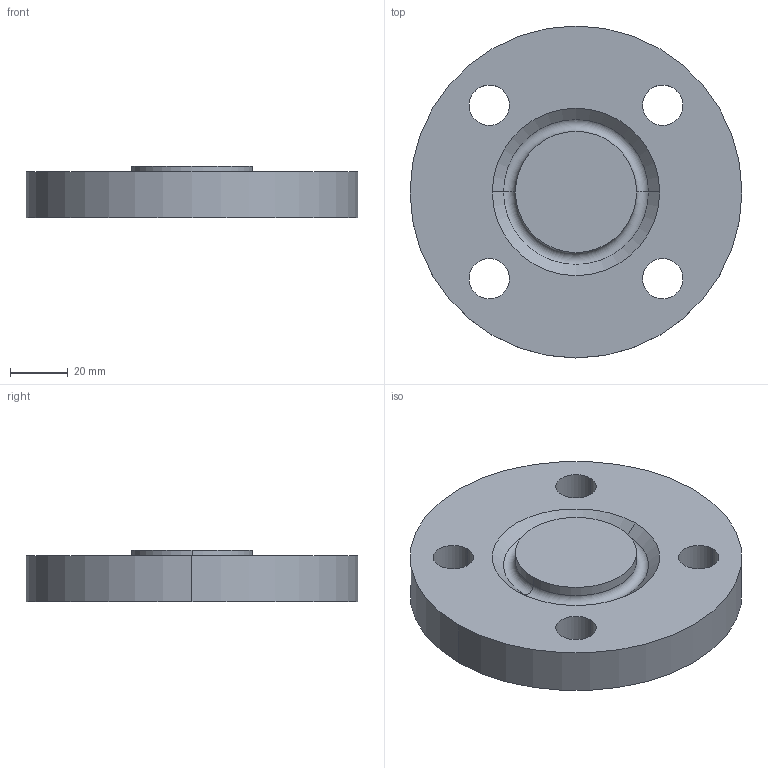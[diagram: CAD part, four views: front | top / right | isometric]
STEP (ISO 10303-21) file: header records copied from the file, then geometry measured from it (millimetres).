
FILE_DESCRIPTION (( 'STEP AP214' ), '1' );
FILE_NAME ('PN40 DN25 Type 05 - Type H Face.STEP', '2018-12-29T20:33:28', ( '' ), ( '' ), 'SwSTEP 2.0', 'SolidWorks 2019', '' );
FILE_SCHEMA (( 'AUTOMOTIVE_DESIGN' ));
Length unit declared in the file: millimetre
Products named in the file (1): PN40 DN25 Type 05 - Type H Face
Bounding box: 115 x 115 x 18 mm (x, y, z)
Volume: 155854.2 mm3; surface area: 29030.6 mm2
Topology: 1 solids, 1 shells, 19 faces, 44 edges, 28 vertices
Faces by surface type: cylinder 12, plane 3, torus 2, cone 2
Entity records: 606 total; most frequent: DIRECTION 114, CARTESIAN_POINT 92, ORIENTED_EDGE 88, AXIS2_PLACEMENT_3D 50, EDGE_CURVE 44, CIRCLE 30, EDGE_LOOP 28, VERTEX_POINT 28
